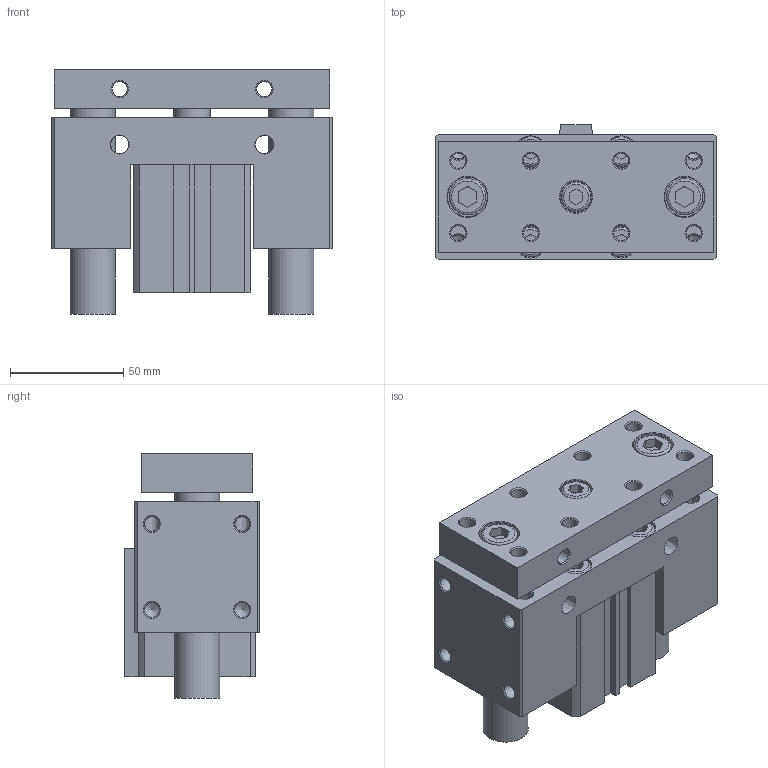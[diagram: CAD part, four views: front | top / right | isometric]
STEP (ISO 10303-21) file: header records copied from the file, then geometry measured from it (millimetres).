
FILE_DESCRIPTION((''),'2;1');
FILE_NAME('I:\3D電子目錄\氣缸\JCB\JCB\JCB40\JCB40x30.stp','2007-08-23T20:08:12',('Administrator'),(''),'Autodesk Inventor 11','Autodesk Inventor 11','');
FILE_SCHEMA(('AUTOMOTIVE_DESIGN { 1 0 10303 214 1 1 1 1 }'));
Length unit declared in the file: millimetre
Products named in the file (1): JCB40
Bounding box: 124 x 59.5 x 108 mm (x, y, z)
Volume: 502607.3 mm3; surface area: 113771.1 mm2
Topology: 3 solids, 3 shells, 303 faces, 731 edges, 473 vertices
Faces by surface type: plane 163, cylinder 52, cone 47, bspline 33, torus 8
Full cylindrical faces by diameter (mm): 2.2 x2, 6.647 x4, 6.8 x4, 10 x8, 13 x5, 14 x5, 16 x3, 17 x1, 17.5 x2, 20 x2, 23 x2, 28 x1, 29 x1, 42 x4, 44.5 x2
Entity records: 8528 total; most frequent: CARTESIAN_POINT 2090, DIRECTION 1302, ORIENTED_EDGE 1114, EDGE_CURVE 557, EDGE_LOOP 522, AXIS2_PLACEMENT_3D 480, VERTEX_POINT 435, VECTOR 342
